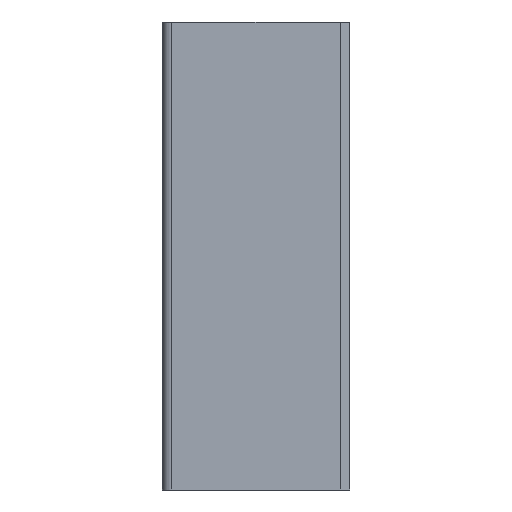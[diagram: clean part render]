
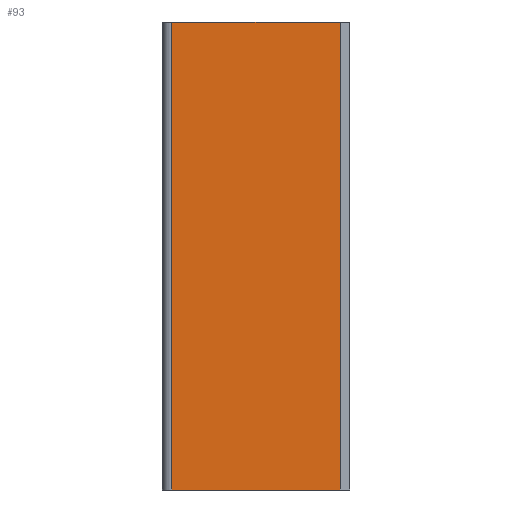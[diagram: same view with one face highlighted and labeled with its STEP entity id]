
A CAD part, left-side view. The second image highlights one B-rep face of the part: STEP entity #93.
In plain terms, the highlighted face is a extrusion surface.
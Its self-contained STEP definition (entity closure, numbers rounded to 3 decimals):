
#54=CARTESIAN_POINT('Control Point',(0.,3.,-150.)) ;
#55=CARTESIAN_POINT('Control Point',(0.,3.,0.)) ;
#59=CARTESIAN_POINT('Line Origine',(0.,30.,0.)) ;
#63=CARTESIAN_POINT('Vertex',(0.,3.,0.)) ;
#65=CARTESIAN_POINT('Vertex',(0.,57.,0.)) ;
#68=CARTESIAN_POINT('Line Origine',(0.,57.,-75.)) ;
#72=CARTESIAN_POINT('Vertex',(0.,57.,-150.)) ;
#75=CARTESIAN_POINT('Line Origine',(0.,30.,-150.)) ;
#79=CARTESIAN_POINT('Vertex',(0.,3.,-150.)) ;
#82=CARTESIAN_POINT('Line Origine',(0.,3.,-75.)) ;
#56=DIRECTION('Vector Direction',(0.,1.,0.)) ;
#60=DIRECTION('Vector Direction',(0.,1.,0.)) ;
#69=DIRECTION('Vector Direction',(0.,0.,1.)) ;
#76=DIRECTION('Vector Direction',(0.,1.,0.)) ;
#83=DIRECTION('Vector Direction',(0.,0.,1.)) ;
#88=ORIENTED_EDGE('',*,*,#67,.T.) ;
#89=ORIENTED_EDGE('',*,*,#74,.T.) ;
#90=ORIENTED_EDGE('',*,*,#81,.T.) ;
#91=ORIENTED_EDGE('',*,*,#86,.T.) ;
#57=VECTOR('Extrusion Surface Vector',#56,1.) ;
#61=VECTOR('Line Direction',#60,1.) ;
#70=VECTOR('Line Direction',#69,1.) ;
#77=VECTOR('Line Direction',#76,1.) ;
#84=VECTOR('Line Direction',#83,1.) ;
#93=ADVANCED_FACE('Superficie.1',(#92),#58,.T.) ;
#53=B_SPLINE_CURVE_WITH_KNOTS('',1,(#54,#55),.UNSPECIFIED.,.F.,.U.,(2,2),(-75.,75.),.UNSPECIFIED.) ;
#67=EDGE_CURVE('',#64,#66,#62,.T.) ;
#74=EDGE_CURVE('',#66,#73,#71,.F.) ;
#81=EDGE_CURVE('',#73,#80,#78,.F.) ;
#86=EDGE_CURVE('',#80,#64,#85,.T.) ;
#87=EDGE_LOOP('',(#88,#89,#90,#91)) ;
#92=FACE_OUTER_BOUND('',#87,.T.) ;
#62=LINE('Line',#59,#61) ;
#71=LINE('Line',#68,#70) ;
#78=LINE('Line',#75,#77) ;
#85=LINE('Line',#82,#84) ;
#58=SURFACE_OF_LINEAR_EXTRUSION('generated tabulated cylinder',#53,#57) ;
#64=VERTEX_POINT('',#63) ;
#66=VERTEX_POINT('',#65) ;
#73=VERTEX_POINT('',#72) ;
#80=VERTEX_POINT('',#79) ;
